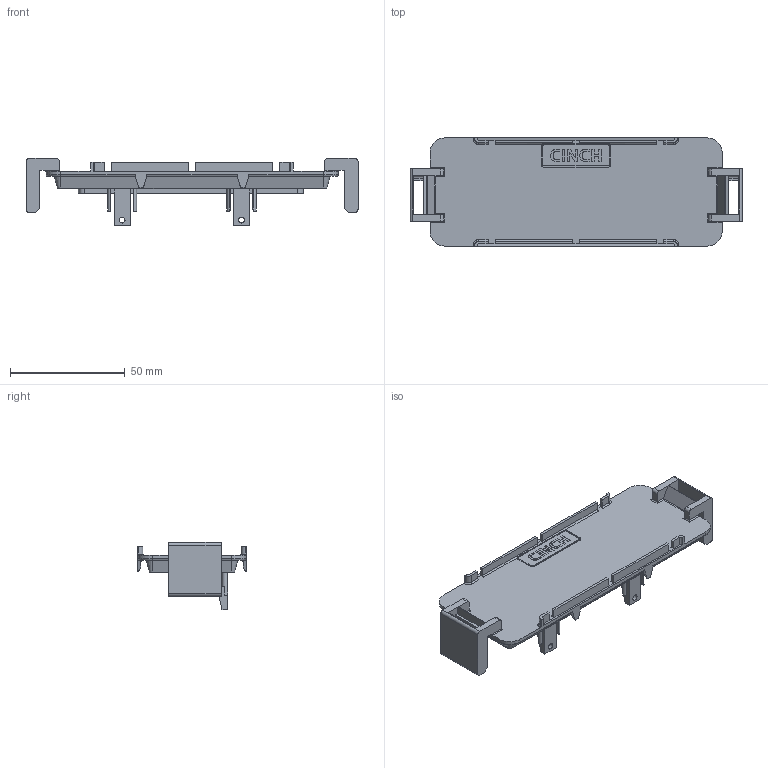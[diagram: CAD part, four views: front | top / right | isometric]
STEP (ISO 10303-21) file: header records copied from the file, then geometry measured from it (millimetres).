
FILE_DESCRIPTION((''),'2;1');
FILE_NAME('5810000027_ASM','2008-06-02T',('eake'),(''),'PRO/ENGINEER BY PARAMETRIC TECHNOLOGY CORPORATION, 2005451','PRO/ENGINEER BY PARAMETRIC TECHNOLOGY CORPORATION, 2005451','');
FILE_SCHEMA(('CONFIG_CONTROL_DESIGN'));
Length unit declared in the file: inch
Products named in the file (2): 4741170133; 5810000027_ASM
Assembly tree (1 placements, depth 2):
  5810000027_ASM
    4741170133
Bounding box: 144.78 x 47.12 x 29.34 mm (x, y, z)
Volume: 23881.4 mm3; surface area: 29599.7 mm2
Topology: 1 solids, 1 shells, 598 faces, 1665 edges, 1086 vertices
Faces by surface type: plane 362, cylinder 218, torus 12, cone 4, bspline 2
Entity records: 19379 total; most frequent: CARTESIAN_POINT 3709, ORIENTED_EDGE 3330, DIRECTION 3211, EDGE_CURVE 1665, VECTOR 1201, LINE 1201, VERTEX_POINT 1086, AXIS2_PLACEMENT_3D 1005
